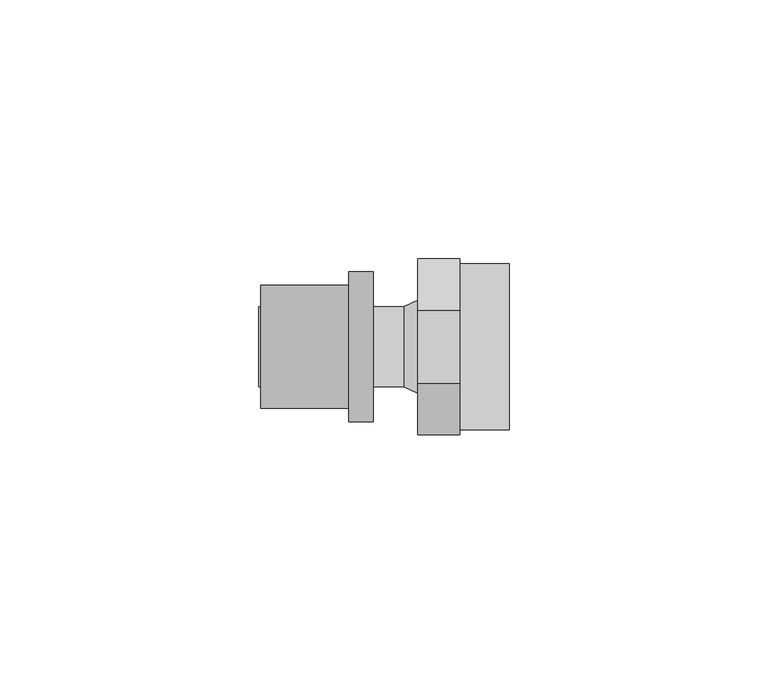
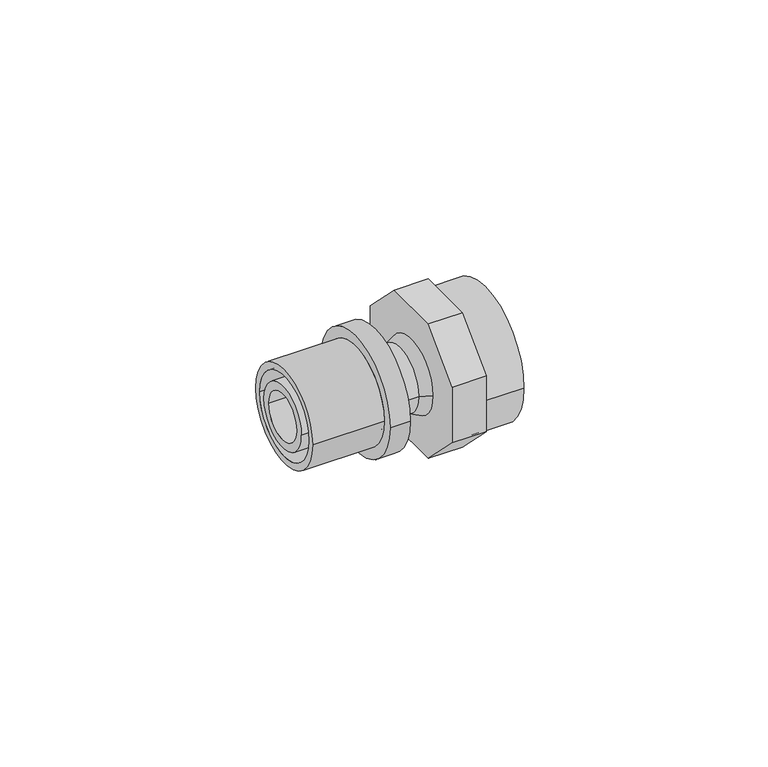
"""IFC4 building model written with IfcOpenShell, lengths in millimetres: pipe fitting geometry, FASTLOC_Adapter_EX+, with internal thread : FSL A internal AT."""

from ifc_helpers import new_model, si_unit, point, frame, origin, origin_2d, place, context, project, spatial, polyline, circle_curve, trimmed, segment, composite_curve, outline, extrude, source, transform, mapped, element, save
from ifc_brep_helpers import plane_surface, cylinder_surface, revolved_surface, advanced_brep


def pipe_fitting_a2d92617(model_context):
    return source(origin(), model_context, "Body", "SolidModel", [
        advanced_brep(
        [(-13.3, -14.5, 0.0), (-13.3, 14.5, 0.0), (-8.6, 14.5, 0.0), (-8.6, -14.5, 0.0), (-30.3, -11.85, 0.0), (-30.3, 11.85, 0.0), (-13.3, 11.85, 0.0), (-13.3, -11.85, 0.0), (-8.6, -10.15, 0.0), (-8.6, 10.15, 0.0), (-30.3, 10.15, 0.0), (-30.3, -10.15, 0.0)],
        [
            (0, 1, circle_curve(frame((-13.3, 0.0, 0.0), z_axis=(1.0, 0.0, 0.0), x_axis=(0.0, 1.0, 0.0)), 14.5)),
            (1, 2),
            (2, 3, circle_curve(frame((-8.6, 0.0, 0.0), z_axis=(-1.0, 0.0, 0.0), x_axis=(0.0, 1.0, 0.0)), 14.5)),
            (3, 0),
            (4, 5, circle_curve(frame((-30.3, 0.0, 0.0), z_axis=(1.0, 0.0, 0.0), x_axis=(0.0, 1.0, 0.0)), 11.85)),
            (5, 6),
            (6, 7, circle_curve(frame((-13.3, 0.0, 0.0), z_axis=(-1.0, 0.0, 0.0), x_axis=(0.0, 1.0, 0.0)), 11.85)),
            (7, 4),
            (8, 9, circle_curve(frame((-8.6, 0.0, 0.0), z_axis=(1.0, 0.0, 0.0), x_axis=(0.0, 1.0, 0.0)), 10.15)),
            (9, 10),
            (10, 11, circle_curve(frame((-30.3, 0.0, 0.0), z_axis=(-1.0, 0.0, 0.0), x_axis=(0.0, 1.0, 0.0)), 10.15)),
            (11, 8),
            (1, 0, circle_curve(frame((-13.3, 0.0, 0.0), z_axis=(1.0, 0.0, 0.0), x_axis=(0.0, -1.0, 0.0)), 14.5)),
            (3, 2, circle_curve(frame((-8.6, 0.0, 0.0), z_axis=(-1.0, 0.0, 0.0), x_axis=(0.0, -1.0, 0.0)), 14.5)),
            (6, 7, circle_curve(frame((-13.3, 0.0, 0.0), z_axis=(1.0, 0.0, 0.0), x_axis=(0.0, -1.0, 0.0)), 11.85)),
            (5, 4, circle_curve(frame((-30.3, 0.0, 0.0), z_axis=(1.0, 0.0, 0.0), x_axis=(0.0, -1.0, 0.0)), 11.85)),
            (10, 11, circle_curve(frame((-30.3, 0.0, 0.0), z_axis=(1.0, 0.0, 0.0), x_axis=(0.0, -1.0, 0.0)), 10.15)),
            (9, 8, circle_curve(frame((-8.6, 0.0, 0.0), z_axis=(1.0, 0.0, 0.0), x_axis=(0.0, -1.0, 0.0)), 10.15)),
        ],
        [
            cylinder_surface(frame((-8.6, 0.0, 0.0), z_axis=(-1.0, 0.0, 0.0), x_axis=(0.0, 1.0, 0.0)), 14.5),
            cylinder_surface(frame((-8.6, 0.0, 0.0), z_axis=(-1.0, 0.0, 0.0), x_axis=(0.0, 1.0, 0.0)), 11.85),
            revolved_surface(polyline([(-30.300000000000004, 10.15, 0.0), (-8.6, 10.15, 0.0)]), (-8.6, 0.0, 0.0), (-1.0, 0.0, 0.0)),
            cylinder_surface(frame((-8.6, 0.0, 0.0), z_axis=(-1.0, 0.0, 0.0), x_axis=(0.0, -1.0, 0.0)), 14.5),
            plane_surface(frame((-13.3, 0.0, 0.0), z_axis=(-1.0, 0.0, 0.0), x_axis=(0.0, -1.0, 0.0))),
            cylinder_surface(frame((-8.6, 0.0, 0.0), z_axis=(-1.0, 0.0, 0.0), x_axis=(0.0, -1.0, 0.0)), 11.85),
            plane_surface(frame((-30.3, 0.0, 0.0), z_axis=(-1.0, 0.0, 0.0), x_axis=(0.0, -1.0, 0.0))),
            revolved_surface(polyline([(-30.300000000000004, -10.15, 0.0), (-8.6, -10.15, 0.0)]), (-8.6, 0.0, 0.0), (-1.0, 0.0, 0.0)),
            plane_surface(frame((-8.6, 0.0, 0.0), z_axis=(1.0, 0.0, 0.0), x_axis=(0.0, -1.0, 0.0))),
        ],
        [
            (0, [[1, 2, 3, 4]]),
            (1, [[5, 6, 7, 8]]),
            (2, [[9, 10, 11, 12]]),
            (3, [[13, -4, 14, -2]]),
            (4, [[-13, -1], [15, -7]]),
            (5, [[16, -8, -15, -6]]),
            (6, [[-16, -5], [17, -11]]),
            (7, [[18, -12, -17, -10]]),
            (8, [[-14, -3], [-18, -9]]),
        ],
    ),
        advanced_brep(
        [(-13.3, 7.75, 0.0), (-13.3, -7.75, 0.0), (-30.7, -7.75, 0.0), (-30.7, 7.75, 0.0), (-10.6, 9.0, 0.0), (-10.6, -9.0, 0.0), (-13.3, -9.0, 0.0), (-13.3, 9.0, 0.0), (-2.7, 7.75, 0.0), (-2.7, -7.75, 0.0), (-10.6, -7.75, 0.0), (-10.6, 7.75, 0.0), (0.0, 9.0, 0.0), (0.0, -9.0, 0.0), (-30.7, 5.75, 0.0), (-30.7, -5.75, 0.0), (0.0, -5.75, 0.0), (0.0, 5.75, 0.0)],
        [
            (0, 1, circle_curve(frame((-13.3, 0.0, 0.0), z_axis=(-1.0, 0.0, 0.0), x_axis=(0.0, -1.0, 0.0)), 7.75)),
            (1, 2),
            (2, 3, circle_curve(frame((-30.7, 0.0, 0.0), z_axis=(1.0, 0.0, 0.0), x_axis=(0.0, -1.0, 0.0)), 7.75)),
            (3, 0),
            (4, 5, circle_curve(frame((-10.6, 0.0, 0.0), z_axis=(-1.0, 0.0, 0.0), x_axis=(0.0, -1.0, 0.0)), 9.0)),
            (5, 6),
            (6, 7, circle_curve(frame((-13.3, 0.0, 0.0), z_axis=(1.0, 0.0, 0.0), x_axis=(0.0, -1.0, 0.0)), 9.0)),
            (7, 4),
            (8, 9, circle_curve(frame((-2.7, 0.0, 0.0), z_axis=(-1.0, 0.0, 0.0), x_axis=(0.0, -1.0, 0.0)), 7.75)),
            (9, 10),
            (10, 11, circle_curve(frame((-10.6, 0.0, 0.0), z_axis=(1.0, 0.0, 0.0), x_axis=(0.0, -1.0, 0.0)), 7.75)),
            (11, 8),
            (12, 13, circle_curve(frame((0.0, 0.0, 0.0), z_axis=(-1.0, 0.0, 0.0), x_axis=(0.0, -1.0, 0.0)), 9.0)),
            (13, 9),
            (8, 12),
            (14, 15, circle_curve(frame((-30.7, 0.0, 0.0), z_axis=(-1.0, 0.0, 0.0), x_axis=(0.0, -1.0, 0.0)), 5.75)),
            (15, 16),
            (16, 17, circle_curve(frame((0.0, 0.0, 0.0), z_axis=(1.0, 0.0, 0.0), x_axis=(0.0, -1.0, 0.0)), 5.75)),
            (17, 14),
            (2, 3, circle_curve(frame((-30.7, 0.0, 0.0), z_axis=(-1.0, 0.0, 0.0), x_axis=(0.0, 1.0, 0.0)), 7.75)),
            (14, 15, circle_curve(frame((-30.7, 0.0, 0.0), z_axis=(1.0, 0.0, 0.0), x_axis=(0.0, 1.0, 0.0)), 5.75)),
            (1, 0, circle_curve(frame((-13.3, 0.0, 0.0), z_axis=(-1.0, 0.0, 0.0), x_axis=(0.0, 1.0, 0.0)), 7.75)),
            (6, 7, circle_curve(frame((-13.3, 0.0, 0.0), z_axis=(-1.0, 0.0, 0.0), x_axis=(0.0, 1.0, 0.0)), 9.0)),
            (5, 4, circle_curve(frame((-10.6, 0.0, 0.0), z_axis=(-1.0, 0.0, 0.0), x_axis=(0.0, 1.0, 0.0)), 9.0)),
            (10, 11, circle_curve(frame((-10.6, 0.0, 0.0), z_axis=(-1.0, 0.0, 0.0), x_axis=(0.0, 1.0, 0.0)), 7.75)),
            (9, 8, circle_curve(frame((-2.7, 0.0, 0.0), z_axis=(-1.0, 0.0, 0.0), x_axis=(0.0, 1.0, 0.0)), 7.75)),
            (13, 12, circle_curve(frame((0.0, 0.0, 0.0), z_axis=(-1.0, 0.0, 0.0), x_axis=(0.0, 1.0, 0.0)), 9.0)),
            (16, 17, circle_curve(frame((0.0, 0.0, 0.0), z_axis=(-1.0, 0.0, 0.0), x_axis=(0.0, 1.0, 0.0)), 5.75)),
        ],
        [
            cylinder_surface(frame((0.0, 0.0, 0.0), z_axis=(1.0, 0.0, 0.0), x_axis=(0.0, -1.0, 0.0)), 7.75),
            cylinder_surface(frame((0.0, 0.0, 0.0), z_axis=(1.0, 0.0, 0.0), x_axis=(0.0, -1.0, 0.0)), 9.0),
            revolved_surface(polyline([(-2.7, -7.75, 0.0), (0.0, -9.0, 0.0)]), (0.0, 0.0, 0.0), (1.0, 0.0, 0.0)),
            revolved_surface(polyline([(0.0, -5.75, 0.0), (-30.7, -5.75, 0.0)]), (0.0, 0.0, 0.0), (1.0, 0.0, 0.0)),
            plane_surface(frame((-30.7, 0.0, 0.0), z_axis=(-1.0, 0.0, 0.0), x_axis=(0.0, 1.0, 0.0))),
            cylinder_surface(frame((0.0, 0.0, 0.0), z_axis=(1.0, 0.0, 0.0), x_axis=(0.0, 1.0, 0.0)), 7.75),
            plane_surface(frame((-13.3, 0.0, 0.0), z_axis=(-1.0, 0.0, 0.0), x_axis=(0.0, 1.0, 0.0))),
            cylinder_surface(frame((0.0, 0.0, 0.0), z_axis=(1.0, 0.0, 0.0), x_axis=(0.0, 1.0, 0.0)), 9.0),
            plane_surface(frame((-10.6, 0.0, 0.0), z_axis=(1.0, 0.0, 0.0), x_axis=(0.0, 1.0, 0.0))),
            revolved_surface(polyline([(-2.7, 7.75, 0.0), (0.0, 9.0, 0.0)]), (0.0, 0.0, 0.0), (1.0, 0.0, 0.0)),
            plane_surface(frame((0.0, 0.0, 0.0), z_axis=(1.0, 0.0, 0.0), x_axis=(0.0, 1.0, 0.0))),
            revolved_surface(polyline([(0.0, 5.75, 0.0), (-30.7, 5.75, 0.0)]), (0.0, 0.0, 0.0), (1.0, 0.0, 0.0)),
        ],
        [
            (0, [[1, 2, 3, 4]]),
            (1, [[5, 6, 7, 8]]),
            (0, [[9, 10, 11, 12]]),
            (2, [[13, 14, -9, 15]]),
            (3, [[16, 17, 18, 19]]),
            (4, [[20, -3], [21, -16]]),
            (5, [[22, -4, -20, -2]]),
            (6, [[23, -7], [-22, -1]]),
            (7, [[24, -8, -23, -6]]),
            (8, [[-24, -5], [25, -11]]),
            (5, [[26, -12, -25, -10]]),
            (9, [[27, -15, -26, -14]]),
            (10, [[-27, -13], [28, -18]]),
            (11, [[-21, -19, -28, -17]]),
        ],
    ),
        extrude(outline(polyline([(-7.0416306, -17.0), (-17.0, -7.0416306), (-17.0, 7.0416306), (-7.0416306, 17.0), (7.0416306, 17.0), (17.0, 7.0416306), (17.0, -7.0416306), (7.0416306, -17.0), (-7.0416306, -17.0)]), holes=[composite_curve([segment(trimmed(circle_curve(origin_2d(), 5.75), [point((-5.75, 0.0))], [point((5.75, 0.0))], True, "CARTESIAN"), True, "CONTINUOUS"), segment(trimmed(circle_curve(origin_2d(), 5.75), [point((5.75, 0.0))], [point((-5.75, 0.0))], True, "CARTESIAN"), True, "CONTINUOUS")], self_intersect=False)]), frame((0.0, 0.0, 0.0), z_axis=(1.0, 0.0, 0.0), x_axis=(0.0, 1.0, 0.0)), (0.0, 0.0, 1.0), 8.1),
        extrude(outline(composite_curve([segment(trimmed(circle_curve(origin_2d(), 16.0), [point((-16.0, 0.0))], [point((16.0, 0.0))], False, "CARTESIAN"), True, "CONTINUOUS"), segment(trimmed(circle_curve(origin_2d(), 16.0), [point((16.0, 0.0))], [point((-16.0, 0.0))], False, "CARTESIAN"), True, "CONTINUOUS")], self_intersect=False), holes=[composite_curve([segment(trimmed(circle_curve(origin_2d(), 12.05), [point((-12.05, 0.0))], [point((12.05, 0.0))], True, "CARTESIAN"), True, "CONTINUOUS"), segment(trimmed(circle_curve(origin_2d(), 12.05), [point((12.05, 0.0))], [point((-12.05, 0.0))], True, "CARTESIAN"), True, "CONTINUOUS")], self_intersect=False)]), frame((8.1, 0.0, 0.0), z_axis=(1.0, 0.0, 0.0), x_axis=(0.0, 1.0, 0.0)), (0.0, 0.0, 1.0), 9.6),
    ])


if __name__ == "__main__":
    model = new_model("IFC4")
    model_context = context("Model", 3, world=origin())
    ifc_project = project(units=[si_unit("LENGTHUNIT", "METRE", prefix="MILLI")], contexts=[model_context])
    site = spatial("IfcSite", under=ifc_project)
    building = spatial("IfcBuilding", under=site)
    placement = place(None, origin())
    pipe_fitting_shape = pipe_fitting_a2d92617(model_context)
    element("IfcPipeFitting", 1, ObjectType="FASTLOC_Adapter_EX+, with internal thread : FSL A internal AT", at=placement, inside=building, context=model_context, shape_type="MappedRepresentation", body=[
        mapped(pipe_fitting_shape, transform((0.0, 0.0, 0.0), x_axis=(1.0, 0.0, 0.0), y_axis=(0.0, 1.0, 0.0), z_axis=(0.0, 0.0, 1.0))),
    ])
    save(model, "model.ifc")
